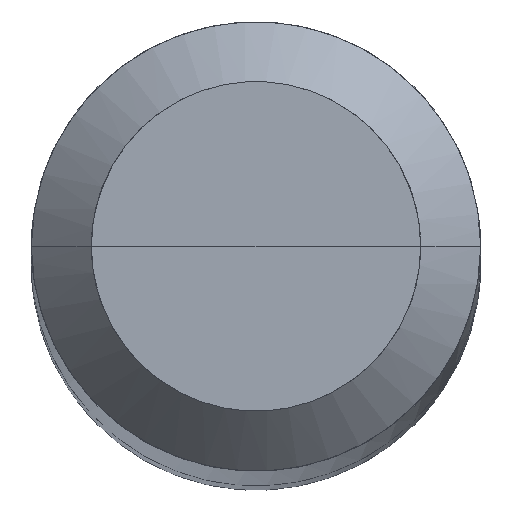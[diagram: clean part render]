
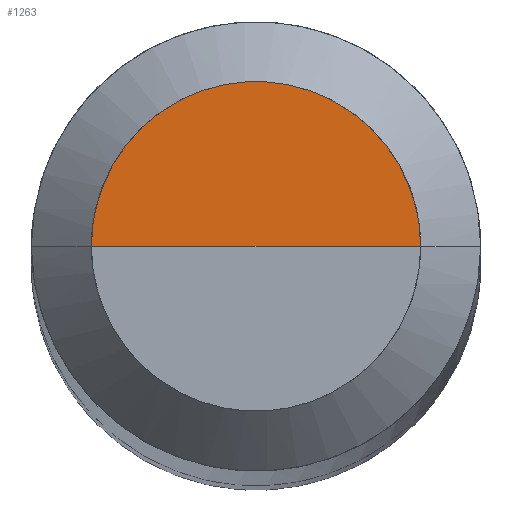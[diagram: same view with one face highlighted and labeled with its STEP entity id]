
A CAD part, top view. The second image highlights one B-rep face of the part: STEP entity #1263.
In plain terms, the highlighted free-form (B-spline) face has degree [1, 2] with [2, 5] control points.
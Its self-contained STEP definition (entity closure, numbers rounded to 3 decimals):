
#1067=CARTESIAN_POINT('',(2.2,0.0,112.0));
#1068=CARTESIAN_POINT('',(2.2,2.2,112.0));
#1069=CARTESIAN_POINT('',(0.0,2.2,112.0));
#1070=CARTESIAN_POINT('',(-2.2,2.2,112.0));
#1071=CARTESIAN_POINT('',(-2.2,0.0,112.0));
#1072=CARTESIAN_POINT('',(0.0,0.0,112.0));
#1248=(
BOUNDED_SURFACE()
B_SPLINE_SURFACE(1,2,(
(#1067,#1068,#1069,#1070,#1071),
(#1072,#1072,#1072,#1072,#1072)
), .UNSPECIFIED.,.F.,.F.,.F.)
B_SPLINE_SURFACE_WITH_KNOTS((2,2),(3,2,3),(
0.0,1.0),(
0.0,0.5,1.0), .UNSPECIFIED.)
GEOMETRIC_REPRESENTATION_ITEM()
RATIONAL_B_SPLINE_SURFACE(((1.0,0.707,1.0,0.707,1.0),
(1.0,0.707,1.0,0.707,1.0)
))
REPRESENTATION_ITEM('')
SURFACE()
);
#1249=(
BOUNDED_CURVE()
B_SPLINE_CURVE(2,(#1071,#1070,#1069,#1068,#1067),.UNSPECIFIED.,.F.,.F.)
B_SPLINE_CURVE_WITH_KNOTS((3,2,3),
(0.0,0.5,1.0),.UNSPECIFIED.)
CURVE()
GEOMETRIC_REPRESENTATION_ITEM()
RATIONAL_B_SPLINE_CURVE((1.0,0.707,1.0,0.707,1.0))
REPRESENTATION_ITEM('')
);
#1250=(
BOUNDED_CURVE()
B_SPLINE_CURVE(1,(#1067,#1072),.UNSPECIFIED.,.F.,.F.)
B_SPLINE_CURVE_WITH_KNOTS((2,2),
(0.0,1.0),.UNSPECIFIED.)
CURVE()
GEOMETRIC_REPRESENTATION_ITEM()
RATIONAL_B_SPLINE_CURVE((1.0,1.0))
REPRESENTATION_ITEM('')
);
#1251=(
BOUNDED_CURVE()
B_SPLINE_CURVE(1,(#1072,#1071),.UNSPECIFIED.,.F.,.F.)
B_SPLINE_CURVE_WITH_KNOTS((2,2),
(0.0,1.0),.UNSPECIFIED.)
CURVE()
GEOMETRIC_REPRESENTATION_ITEM()
RATIONAL_B_SPLINE_CURVE((1.0,1.0))
REPRESENTATION_ITEM('')
);
#1252=VERTEX_POINT('',#1067);
#1253=VERTEX_POINT('',#1071);
#1254=VERTEX_POINT('',#1072);
#1255=EDGE_CURVE('',#1253,#1252,#1249,.T.);
#1256=EDGE_CURVE('',#1252,#1254,#1250,.T.);
#1257=EDGE_CURVE('',#1254,#1253,#1251,.T.);
#1258=ORIENTED_EDGE('',*,*,#1255,.T.);
#1259=ORIENTED_EDGE('',*,*,#1256,.T.);
#1260=ORIENTED_EDGE('',*,*,#1257,.T.);
#1261=EDGE_LOOP('',(#1258,#1259,#1260));
#1262=FACE_OUTER_BOUND('',#1261,.T.);
#1263=ADVANCED_FACE('',(#1262),#1248,.T.);
